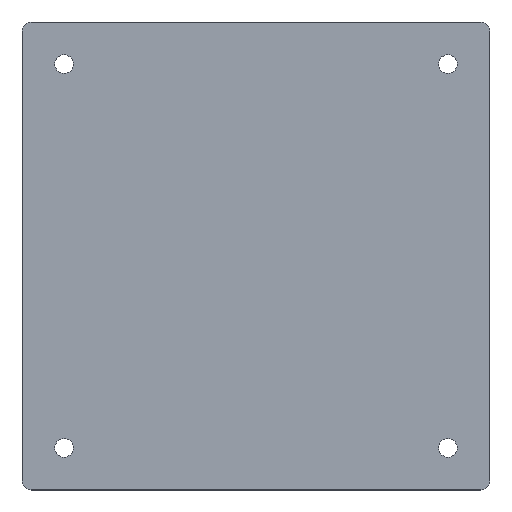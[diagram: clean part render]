
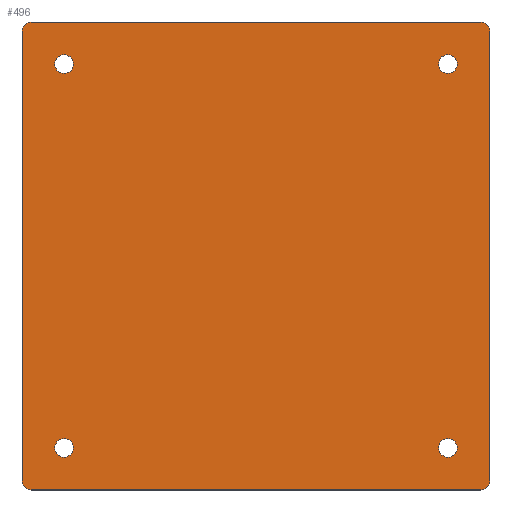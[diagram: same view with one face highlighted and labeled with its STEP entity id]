
A CAD part, top view. The second image highlights one B-rep face of the part: STEP entity #496.
In plain terms, the highlighted planar face has unit normal (0, 0, 1).
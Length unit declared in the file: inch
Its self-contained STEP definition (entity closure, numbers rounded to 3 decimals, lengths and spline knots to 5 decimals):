
#1 = CARTESIAN_POINT ( 'NONE',  ( 6.25, -6., 0.25 ) ) ;
#4 = DIRECTION ( 'NONE',  ( 0., 0., 1. ) ) ;
#7 = DIRECTION ( 'NONE',  ( 1., 0., 0. ) ) ;
#8 = VECTOR ( 'NONE', #598, 39.37008 ) ;
#9 = CARTESIAN_POINT ( 'NONE',  ( 5.125, 5.125, 0.25 ) ) ;
#17 = DIRECTION ( 'NONE',  ( 1., 0., 0. ) ) ;
#27 = LINE ( 'NONE', #257, #8 ) ;
#32 = DIRECTION ( 'NONE',  ( 1., 0., 0. ) ) ;
#35 = CARTESIAN_POINT ( 'NONE',  ( 6.25, 6., 0.25 ) ) ;
#42 = AXIS2_PLACEMENT_3D ( 'NONE', #77, #530, #52 ) ;
#48 = CARTESIAN_POINT ( 'NONE',  ( -6.25, 6.25, 0.25 ) ) ;
#52 = DIRECTION ( 'NONE',  ( 1., 0., 0. ) ) ;
#55 = VERTEX_POINT ( 'NONE', #627 ) ;
#56 = CARTESIAN_POINT ( 'NONE',  ( -6.25, 6.25, 0.25 ) ) ;
#57 = VERTEX_POINT ( 'NONE', #199 ) ;
#64 = EDGE_CURVE ( 'NONE', #235, #376, #595, .T. ) ;
#67 = AXIS2_PLACEMENT_3D ( 'NONE', #232, #248, #135 ) ;
#70 = EDGE_LOOP ( 'NONE', ( #374, #368 ) ) ;
#77 = CARTESIAN_POINT ( 'NONE',  ( 5.125, -5.125, 0.25 ) ) ;
#79 = CARTESIAN_POINT ( 'NONE',  ( -5.125, 5.125, 0.25 ) ) ;
#86 = DIRECTION ( 'NONE',  ( 1., 0., 0. ) ) ;
#89 = ORIENTED_EDGE ( 'NONE', *, *, #617, .F. ) ;
#93 = DIRECTION ( 'NONE',  ( 1., 0., 0. ) ) ;
#100 = CIRCLE ( 'NONE', #599, 0.25 ) ;
#117 = AXIS2_PLACEMENT_3D ( 'NONE', #79, #191, #86 ) ;
#120 = FACE_BOUND ( 'NONE', #70, .T. ) ;
#122 = VERTEX_POINT ( 'NONE', #341 ) ;
#130 = CIRCLE ( 'NONE', #587, 0.25 ) ;
#131 = CIRCLE ( 'NONE', #476, 0.25 ) ;
#135 = DIRECTION ( 'NONE',  ( 1., 0., 0. ) ) ;
#136 = VERTEX_POINT ( 'NONE', #477 ) ;
#147 = CIRCLE ( 'NONE', #431, 0.25 ) ;
#148 = FACE_BOUND ( 'NONE', #390, .T. ) ;
#151 = EDGE_CURVE ( 'NONE', #647, #558, #560, .T. ) ;
#156 = PLANE ( 'NONE',  #67 ) ;
#161 = DIRECTION ( 'NONE',  ( 0., 0., 1. ) ) ;
#175 = ORIENTED_EDGE ( 'NONE', *, *, #594, .T. ) ;
#179 = ORIENTED_EDGE ( 'NONE', *, *, #203, .T. ) ;
#183 = LINE ( 'NONE', #48, #640 ) ;
#191 = DIRECTION ( 'NONE',  ( 0., 0., 1. ) ) ;
#194 = EDGE_CURVE ( 'NONE', #278, #136, #304, .T. ) ;
#196 = VERTEX_POINT ( 'NONE', #638 ) ;
#199 = CARTESIAN_POINT ( 'NONE',  ( 6., 6.25, 0.25 ) ) ;
#200 = DIRECTION ( 'NONE',  ( 1., 0., 0. ) ) ;
#203 = EDGE_CURVE ( 'NONE', #136, #567, #445, .T. ) ;
#211 = VERTEX_POINT ( 'NONE', #35 ) ;
#212 = DIRECTION ( 'NONE',  ( 0., 1., 0. ) ) ;
#213 = EDGE_CURVE ( 'NONE', #414, #55, #553, .T. ) ;
#216 = EDGE_CURVE ( 'NONE', #376, #235, #147, .T. ) ;
#221 = CARTESIAN_POINT ( 'NONE',  ( -6., 6.25, 0.25 ) ) ;
#225 = CARTESIAN_POINT ( 'NONE',  ( 4.875, -5.125, 0.25 ) ) ;
#232 = CARTESIAN_POINT ( 'NONE',  ( 0., 0., 0.25 ) ) ;
#233 = CIRCLE ( 'NONE', #328, 0.25 ) ;
#235 = VERTEX_POINT ( 'NONE', #549 ) ;
#238 = CARTESIAN_POINT ( 'NONE',  ( -5.125, -5.125, 0.25 ) ) ;
#248 = DIRECTION ( 'NONE',  ( 0., 0., 1. ) ) ;
#251 = ORIENTED_EDGE ( 'NONE', *, *, #460, .F. ) ;
#255 = DIRECTION ( 'NONE',  ( 0., 0., 1. ) ) ;
#257 = CARTESIAN_POINT ( 'NONE',  ( -6.25, -6.25, 0.25 ) ) ;
#259 = VECTOR ( 'NONE', #493, 39.37008 ) ;
#267 = ORIENTED_EDGE ( 'NONE', *, *, #194, .T. ) ;
#269 = DIRECTION ( 'NONE',  ( 1., 0., 0. ) ) ;
#271 = DIRECTION ( 'NONE',  ( 1., 0., 0. ) ) ;
#273 = CARTESIAN_POINT ( 'NONE',  ( 4.875, 5.125, 0.25 ) ) ;
#274 = CARTESIAN_POINT ( 'NONE',  ( -5.125, 5.125, 0.25 ) ) ;
#278 = VERTEX_POINT ( 'NONE', #221 ) ;
#280 = ORIENTED_EDGE ( 'NONE', *, *, #619, .T. ) ;
#286 = CARTESIAN_POINT ( 'NONE',  ( -5.375, -5.125, 0.25 ) ) ;
#291 = ORIENTED_EDGE ( 'NONE', *, *, #216, .F. ) ;
#304 = CIRCLE ( 'NONE', #442, 0.25 ) ;
#307 = EDGE_LOOP ( 'NONE', ( #480, #440, #642, #267, #179, #175, #280, #542 ) ) ;
#308 = ORIENTED_EDGE ( 'NONE', *, *, #151, .F. ) ;
#314 = DIRECTION ( 'NONE',  ( 0., 0., 1. ) ) ;
#328 = AXIS2_PLACEMENT_3D ( 'NONE', #591, #637, #7 ) ;
#336 = ORIENTED_EDGE ( 'NONE', *, *, #213, .F. ) ;
#338 = DIRECTION ( 'NONE',  ( 1., 0., 0. ) ) ;
#341 = CARTESIAN_POINT ( 'NONE',  ( -4.875, -5.125, 0.25 ) ) ;
#344 = EDGE_CURVE ( 'NONE', #57, #278, #183, .T. ) ;
#356 = EDGE_CURVE ( 'NONE', #465, #211, #387, .T. ) ;
#359 = VERTEX_POINT ( 'NONE', #286 ) ;
#365 = CIRCLE ( 'NONE', #636, 0.25 ) ;
#368 = ORIENTED_EDGE ( 'NONE', *, *, #391, .F. ) ;
#373 = AXIS2_PLACEMENT_3D ( 'NONE', #274, #509, #32 ) ;
#374 = ORIENTED_EDGE ( 'NONE', *, *, #409, .F. ) ;
#376 = VERTEX_POINT ( 'NONE', #273 ) ;
#377 = CARTESIAN_POINT ( 'NONE',  ( 5.375, -5.125, 0.25 ) ) ;
#383 = EDGE_CURVE ( 'NONE', #211, #57, #233, .T. ) ;
#387 = LINE ( 'NONE', #411, #502 ) ;
#390 = EDGE_LOOP ( 'NONE', ( #291, #514 ) ) ;
#391 = EDGE_CURVE ( 'NONE', #122, #359, #131, .T. ) ;
#394 = EDGE_LOOP ( 'NONE', ( #336, #89 ) ) ;
#406 = CIRCLE ( 'NONE', #117, 0.25 ) ;
#409 = EDGE_CURVE ( 'NONE', #359, #122, #100, .T. ) ;
#411 = CARTESIAN_POINT ( 'NONE',  ( 6.25, 6.25, 0.25 ) ) ;
#414 = VERTEX_POINT ( 'NONE', #590 ) ;
#417 = AXIS2_PLACEMENT_3D ( 'NONE', #9, #314, #473 ) ;
#431 = AXIS2_PLACEMENT_3D ( 'NONE', #518, #486, #271 ) ;
#440 = ORIENTED_EDGE ( 'NONE', *, *, #383, .T. ) ;
#442 = AXIS2_PLACEMENT_3D ( 'NONE', #467, #583, #446 ) ;
#445 = LINE ( 'NONE', #56, #259 ) ;
#446 = DIRECTION ( 'NONE',  ( 1., 0., 0. ) ) ;
#453 = EDGE_LOOP ( 'NONE', ( #308, #251 ) ) ;
#460 = EDGE_CURVE ( 'NONE', #558, #647, #130, .T. ) ;
#464 = CIRCLE ( 'NONE', #556, 0.25 ) ;
#465 = VERTEX_POINT ( 'NONE', #1 ) ;
#467 = CARTESIAN_POINT ( 'NONE',  ( -6., 6., 0.25 ) ) ;
#473 = DIRECTION ( 'NONE',  ( 1., 0., 0. ) ) ;
#476 = AXIS2_PLACEMENT_3D ( 'NONE', #238, #497, #93 ) ;
#477 = CARTESIAN_POINT ( 'NONE',  ( -6.25, 6., 0.25 ) ) ;
#479 = CARTESIAN_POINT ( 'NONE',  ( -6.25, -6., 0.25 ) ) ;
#480 = ORIENTED_EDGE ( 'NONE', *, *, #356, .T. ) ;
#482 = CARTESIAN_POINT ( 'NONE',  ( 6., -6., 0.25 ) ) ;
#486 = DIRECTION ( 'NONE',  ( 0., 0., 1. ) ) ;
#493 = DIRECTION ( 'NONE',  ( 0., -1., 0. ) ) ;
#496 = ADVANCED_FACE ( 'NONE', ( #148, #120, #615, #597, #508 ), #156, .T. ) ;
#497 = DIRECTION ( 'NONE',  ( 0., 0., 1. ) ) ;
#498 = DIRECTION ( 'NONE',  ( 0., 0., 1. ) ) ;
#502 = VECTOR ( 'NONE', #212, 39.37008 ) ;
#508 = FACE_BOUND ( 'NONE', #453, .T. ) ;
#509 = DIRECTION ( 'NONE',  ( 0., 0., 1. ) ) ;
#514 = ORIENTED_EDGE ( 'NONE', *, *, #64, .F. ) ;
#518 = CARTESIAN_POINT ( 'NONE',  ( 5.125, 5.125, 0.25 ) ) ;
#530 = DIRECTION ( 'NONE',  ( 0., 0., 1. ) ) ;
#542 = ORIENTED_EDGE ( 'NONE', *, *, #609, .T. ) ;
#548 = DIRECTION ( 'NONE',  ( -1., 0., 0. ) ) ;
#549 = CARTESIAN_POINT ( 'NONE',  ( 5.375, 5.125, 0.25 ) ) ;
#553 = CIRCLE ( 'NONE', #373, 0.25 ) ;
#556 = AXIS2_PLACEMENT_3D ( 'NONE', #610, #255, #17 ) ;
#558 = VERTEX_POINT ( 'NONE', #377 ) ;
#560 = CIRCLE ( 'NONE', #42, 0.25 ) ;
#564 = CARTESIAN_POINT ( 'NONE',  ( -5.125, -5.125, 0.25 ) ) ;
#567 = VERTEX_POINT ( 'NONE', #479 ) ;
#568 = CARTESIAN_POINT ( 'NONE',  ( 5.125, -5.125, 0.25 ) ) ;
#583 = DIRECTION ( 'NONE',  ( 0., 0., 1. ) ) ;
#587 = AXIS2_PLACEMENT_3D ( 'NONE', #568, #161, #200 ) ;
#590 = CARTESIAN_POINT ( 'NONE',  ( -5.375, 5.125, 0.25 ) ) ;
#591 = CARTESIAN_POINT ( 'NONE',  ( 6., 6., 0.25 ) ) ;
#594 = EDGE_CURVE ( 'NONE', #567, #196, #464, .T. ) ;
#595 = CIRCLE ( 'NONE', #417, 0.25 ) ;
#597 = FACE_BOUND ( 'NONE', #394, .T. ) ;
#598 = DIRECTION ( 'NONE',  ( 1., 0., 0. ) ) ;
#599 = AXIS2_PLACEMENT_3D ( 'NONE', #564, #4, #269 ) ;
#604 = CARTESIAN_POINT ( 'NONE',  ( 6., -6.25, 0.25 ) ) ;
#609 = EDGE_CURVE ( 'NONE', #625, #465, #365, .T. ) ;
#610 = CARTESIAN_POINT ( 'NONE',  ( -6., -6., 0.25 ) ) ;
#615 = FACE_OUTER_BOUND ( 'NONE', #307, .T. ) ;
#617 = EDGE_CURVE ( 'NONE', #55, #414, #406, .T. ) ;
#619 = EDGE_CURVE ( 'NONE', #196, #625, #27, .T. ) ;
#625 = VERTEX_POINT ( 'NONE', #604 ) ;
#627 = CARTESIAN_POINT ( 'NONE',  ( -4.875, 5.125, 0.25 ) ) ;
#636 = AXIS2_PLACEMENT_3D ( 'NONE', #482, #498, #338 ) ;
#637 = DIRECTION ( 'NONE',  ( 0., 0., 1. ) ) ;
#638 = CARTESIAN_POINT ( 'NONE',  ( -6., -6.25, 0.25 ) ) ;
#640 = VECTOR ( 'NONE', #548, 39.37008 ) ;
#642 = ORIENTED_EDGE ( 'NONE', *, *, #344, .T. ) ;
#647 = VERTEX_POINT ( 'NONE', #225 ) ;
